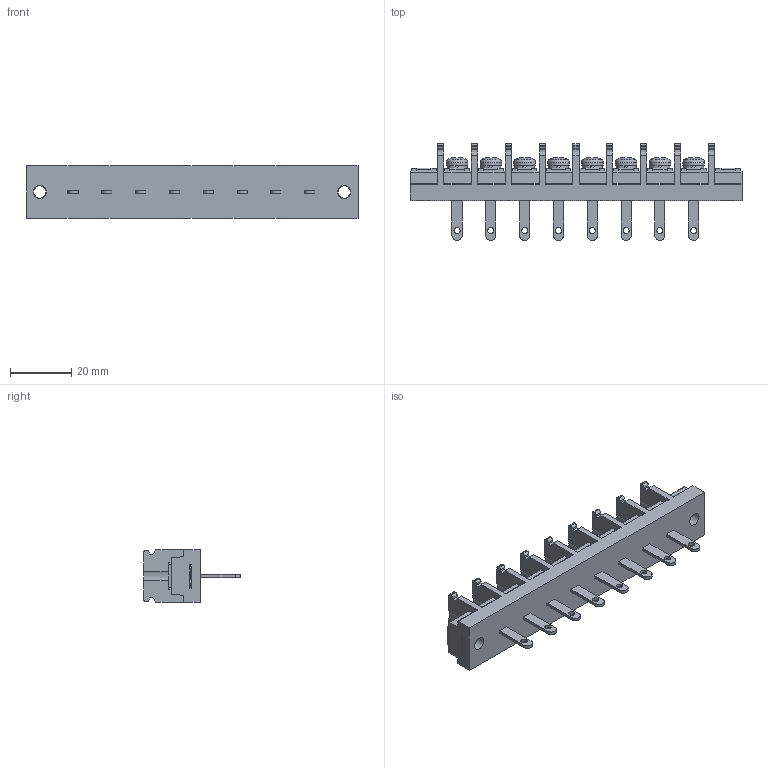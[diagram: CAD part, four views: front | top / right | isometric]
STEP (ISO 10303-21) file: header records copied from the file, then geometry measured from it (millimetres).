
FILE_DESCRIPTION(/* description */ ('Alibre Inc.'),/* implementation_level */ '2;1');
FILE_NAME(/* name */ 'export0',/* time_stamp */ '2015-10-19T19:16:47+09:00',/* author */ (''),/* organization */ (''),/* preprocessor_version */ 'ST-DEVELOPER v14',/* originating_system */ 'Alibre',/* authorisation */ '');
FILE_SCHEMA (('CONFIG_CONTROL_DESIGN'));
Length unit declared in the file: centimetre
Products named in the file (1): ID_1
Bounding box: 108 x 31.5 x 17 mm (x, y, z)
Volume: 19750.1 mm3; surface area: 11648.5 mm2
Topology: 1 solids, 1 shells, 1052 faces, 2932 edges, 1950 vertices
Faces by surface type: plane 734, cylinder 158, bspline 104, cone 32, torus 16, sphere 8
Full cylindrical faces by diameter (mm): 2 x8, 4 x10, 4.2 x2, 6.5 x8, 7 x8
Entity records: 32629 total; most frequent: CARTESIAN_POINT 6988, ORIENTED_EDGE 5708, DIRECTION 4267, EDGE_CURVE 2854, VECTOR 2017, LINE 2017, VERTEX_POINT 1916, AXIS2_PLACEMENT_3D 1487
